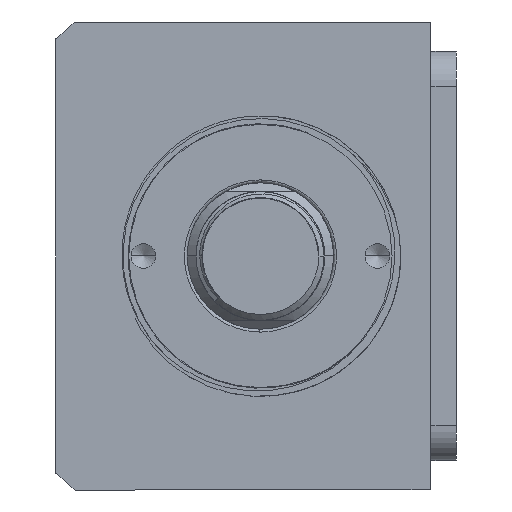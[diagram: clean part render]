
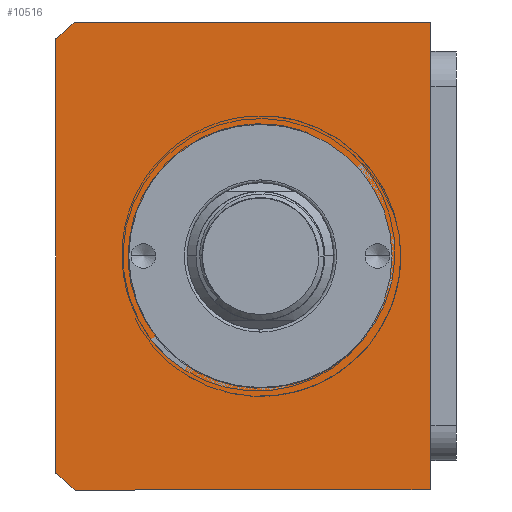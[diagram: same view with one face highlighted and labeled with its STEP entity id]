
A CAD part, front view. The second image highlights one B-rep face of the part: STEP entity #10516.
In plain terms, the highlighted planar face has unit normal (0, -1, 0) as drawn and (0, 0, 1) by its records, which use the part's own axes.
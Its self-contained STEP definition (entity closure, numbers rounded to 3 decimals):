
#221 = CARTESIAN_POINT ( 'NONE',  ( -40., -11.507, 170. ) ) ;
#297 = CIRCLE ( 'NONE', #5001, 22.5 ) ;
#338 = CARTESIAN_POINT ( 'NONE',  ( 40., -11.507, 170. ) ) ;
#569 = DIRECTION ( 'NONE',  ( -1., 0., 0. ) ) ;
#992 = DIRECTION ( 'NONE',  ( 1., 0., 0. ) ) ;
#1056 = VERTEX_POINT ( 'NONE', #221 ) ;
#1185 = CIRCLE ( 'NONE', #15079, 22.5 ) ;
#1201 = CARTESIAN_POINT ( 'NONE',  ( 40., -11.507, 170. ) ) ;
#1257 = CARTESIAN_POINT ( 'NONE',  ( 0., -40.507, 170. ) ) ;
#1275 = AXIS2_PLACEMENT_3D ( 'NONE', #13639, #16376, #8234 ) ;
#1440 = CARTESIAN_POINT ( 'NONE',  ( 37.094, -75.507, 170. ) ) ;
#1922 = LINE ( 'NONE', #10809, #9543 ) ;
#2273 = ORIENTED_EDGE ( 'NONE', *, *, #5019, .T. ) ;
#2326 = EDGE_CURVE ( 'NONE', #13992, #16082, #8388, .T. ) ;
#2485 = ORIENTED_EDGE ( 'NONE', *, *, #2326, .T. ) ;
#2610 = DIRECTION ( 'NONE',  ( 1., 0., 0. ) ) ;
#2678 = DIRECTION ( 'NONE',  ( 0., 0., 1. ) ) ;
#2793 = ORIENTED_EDGE ( 'NONE', *, *, #11974, .T. ) ;
#2855 = VERTEX_POINT ( 'NONE', #11557 ) ;
#3489 = CARTESIAN_POINT ( 'NONE',  ( -22.5, -40.507, 170. ) ) ;
#3539 = EDGE_CURVE ( 'NONE', #10997, #13775, #1185, .T. ) ;
#4106 = VECTOR ( 'NONE', #569, 1000. ) ;
#4526 = ORIENTED_EDGE ( 'NONE', *, *, #4908, .T. ) ;
#4908 = EDGE_CURVE ( 'NONE', #7156, #1056, #7730, .T. ) ;
#5001 = AXIS2_PLACEMENT_3D ( 'NONE', #17232, #9095, #992 ) ;
#5019 = EDGE_CURVE ( 'NONE', #2855, #7156, #11355, .T. ) ;
#5057 = CARTESIAN_POINT ( 'NONE',  ( -37.094, -75.507, 170. ) ) ;
#5249 = EDGE_LOOP ( 'NONE', ( #11644, #2485, #15199, #2793, #2273, #4526 ) ) ;
#5921 = CARTESIAN_POINT ( 'NONE',  ( -40., -11.507, 170. ) ) ;
#6142 = FACE_BOUND ( 'NONE', #8890, .T. ) ;
#6575 = EDGE_CURVE ( 'NONE', #13775, #10997, #297, .T. ) ;
#6768 = PLANE ( 'NONE',  #1275 ) ;
#6864 = CARTESIAN_POINT ( 'NONE',  ( -40., -75.507, 170. ) ) ;
#6970 = LINE ( 'NONE', #6864, #17007 ) ;
#7060 = ORIENTED_EDGE ( 'NONE', *, *, #6575, .F. ) ;
#7156 = VERTEX_POINT ( 'NONE', #338 ) ;
#7621 = CIRCLE ( 'NONE', #11504, 51. ) ;
#7666 = DIRECTION ( 'NONE',  ( 0., 0., 1. ) ) ;
#7730 = LINE ( 'NONE', #5921, #4106 ) ;
#8234 = DIRECTION ( 'NONE',  ( 1., 0., 0. ) ) ;
#8277 = CARTESIAN_POINT ( 'NONE',  ( 22.5, -40.507, 170. ) ) ;
#8388 = CIRCLE ( 'NONE', #11544, 51. ) ;
#8688 = EDGE_CURVE ( 'NONE', #16082, #15022, #6970, .T. ) ;
#8708 = CARTESIAN_POINT ( 'NONE',  ( -40., -72.145, 170. ) ) ;
#8890 = EDGE_LOOP ( 'NONE', ( #7060, #16138 ) ) ;
#9095 = DIRECTION ( 'NONE',  ( 0., 0., 1. ) ) ;
#9337 = EDGE_CURVE ( 'NONE', #1056, #13992, #1922, .T. ) ;
#9543 = VECTOR ( 'NONE', #12161, 1000. ) ;
#10516 = ADVANCED_FACE ( 'NONE', ( #6142, #12531 ), #6768, .T. ) ;
#10530 = VECTOR ( 'NONE', #10686, 1000. ) ;
#10686 = DIRECTION ( 'NONE',  ( 0., 1., 0. ) ) ;
#10741 = DIRECTION ( 'NONE',  ( 0., 0., 1. ) ) ;
#10795 = CARTESIAN_POINT ( 'NONE',  ( 0., -40.507, 170. ) ) ;
#10809 = CARTESIAN_POINT ( 'NONE',  ( -40., -11.507, 170. ) ) ;
#10997 = VERTEX_POINT ( 'NONE', #3489 ) ;
#11355 = LINE ( 'NONE', #1201, #10530 ) ;
#11504 = AXIS2_PLACEMENT_3D ( 'NONE', #15812, #7666, #17183 ) ;
#11544 = AXIS2_PLACEMENT_3D ( 'NONE', #10795, #2678, #12143 ) ;
#11557 = CARTESIAN_POINT ( 'NONE',  ( 40., -72.145, 170. ) ) ;
#11644 = ORIENTED_EDGE ( 'NONE', *, *, #9337, .T. ) ;
#11974 = EDGE_CURVE ( 'NONE', #15022, #2855, #7621, .T. ) ;
#12143 = DIRECTION ( 'NONE',  ( 1., 0., 0. ) ) ;
#12161 = DIRECTION ( 'NONE',  ( 0., -1., 0. ) ) ;
#12531 = FACE_OUTER_BOUND ( 'NONE', #5249, .T. ) ;
#13639 = CARTESIAN_POINT ( 'NONE',  ( 0., 0., 170. ) ) ;
#13775 = VERTEX_POINT ( 'NONE', #8277 ) ;
#13992 = VERTEX_POINT ( 'NONE', #8708 ) ;
#15022 = VERTEX_POINT ( 'NONE', #1440 ) ;
#15051 = DIRECTION ( 'NONE',  ( 1., 0., 0. ) ) ;
#15079 = AXIS2_PLACEMENT_3D ( 'NONE', #1257, #10741, #2610 ) ;
#15199 = ORIENTED_EDGE ( 'NONE', *, *, #8688, .T. ) ;
#15812 = CARTESIAN_POINT ( 'NONE',  ( 0., -40.507, 170. ) ) ;
#16082 = VERTEX_POINT ( 'NONE', #5057 ) ;
#16138 = ORIENTED_EDGE ( 'NONE', *, *, #3539, .F. ) ;
#16376 = DIRECTION ( 'NONE',  ( 0., 0., 1. ) ) ;
#17007 = VECTOR ( 'NONE', #15051, 1000. ) ;
#17183 = DIRECTION ( 'NONE',  ( 1., 0., 0. ) ) ;
#17232 = CARTESIAN_POINT ( 'NONE',  ( 0., -40.507, 170. ) ) ;
